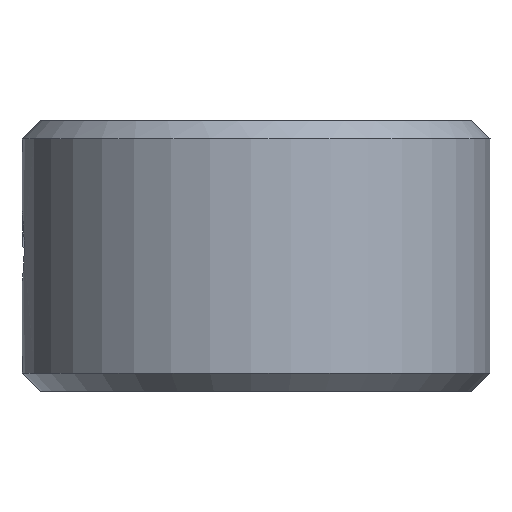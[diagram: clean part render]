
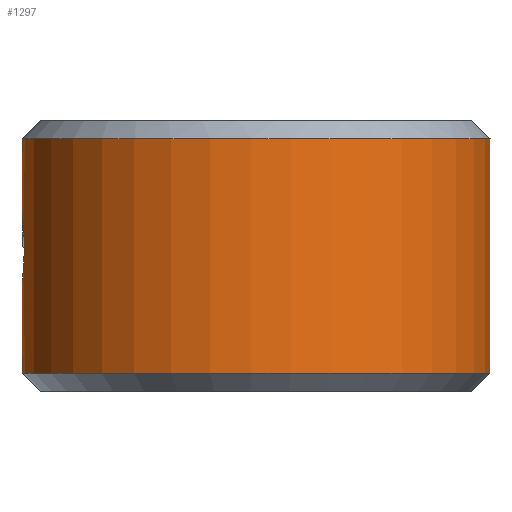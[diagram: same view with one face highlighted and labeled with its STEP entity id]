
A CAD part, front view. The second image highlights one B-rep face of the part: STEP entity #1297.
In plain terms, the highlighted cylindrical face has radius 13 mm (diameter 26 mm), a full revolution.
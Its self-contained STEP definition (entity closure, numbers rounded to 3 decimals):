
#107=CIRCLE('',#1416,13.);
#108=CIRCLE('',#1417,13.);
#109=CIRCLE('',#1420,13.);
#110=CIRCLE('',#1421,13.);
#111=CIRCLE('',#1423,13.);
#112=CIRCLE('',#1424,13.);
#158=FACE_OUTER_BOUND('',#234,.T.);
#234=EDGE_LOOP('',(#1072,#1073,#1074,#1075,#1076,#1077,#1078,#1079,#1080,
#1081,#1082,#1083,#1084,#1085));
#263=ELLIPSE('',#1419,18.385,13.);
#264=ELLIPSE('',#1422,18.385,13.);
#270=LINE('',#1956,#402);
#368=LINE('',#2205,#500);
#369=LINE('',#2208,#501);
#402=VECTOR('',#1483,10.);
#500=VECTOR('',#1713,10.);
#501=VECTOR('',#1716,13.);
#534=B_SPLINE_CURVE_WITH_KNOTS('',3,(#1922,#1923,#1924,#1925,#1926,#1927,
#1928,#1929,#1930,#1931),.UNSPECIFIED.,.F.,.F.,(4,2,2,2,4),(0.312,
0.39,0.468,0.546,0.624),
 .UNSPECIFIED.);
#535=B_SPLINE_CURVE_WITH_KNOTS('',3,(#1936,#1937,#1938,#1939,#1940,#1941,
#1942,#1943,#1944,#1945,#1946,#1947,#1948,#1949,#1950,#1951,#1952,#1953),
 .UNSPECIFIED.,.F.,.F.,(4,2,2,2,2,2,2,2,4),(0.624,0.702,
0.78,0.858,0.936,1.014,1.092,
1.17,1.232),.UNSPECIFIED.);
#551=VERTEX_POINT('',#1919);
#552=VERTEX_POINT('',#1921);
#554=VERTEX_POINT('',#1934);
#555=VERTEX_POINT('',#1955);
#634=VERTEX_POINT('',#2190);
#635=VERTEX_POINT('',#2192);
#636=VERTEX_POINT('',#2196);
#637=VERTEX_POINT('',#2198);
#638=VERTEX_POINT('',#2200);
#639=VERTEX_POINT('',#2202);
#640=VERTEX_POINT('',#2204);
#641=VERTEX_POINT('',#2206);
#667=EDGE_CURVE('',#552,#551,#534,.T.);
#670=EDGE_CURVE('',#551,#554,#535,.T.);
#671=EDGE_CURVE('',#552,#555,#270,.T.);
#787=EDGE_CURVE('',#634,#635,#107,.T.);
#788=EDGE_CURVE('',#635,#634,#108,.T.);
#789=EDGE_CURVE('',#636,#554,#263,.F.);
#790=EDGE_CURVE('',#637,#636,#109,.T.);
#791=EDGE_CURVE('',#638,#637,#110,.T.);
#792=EDGE_CURVE('',#639,#638,#264,.F.);
#793=EDGE_CURVE('',#639,#640,#368,.T.);
#794=EDGE_CURVE('',#641,#640,#111,.T.);
#795=EDGE_CURVE('',#641,#635,#369,.T.);
#796=EDGE_CURVE('',#555,#641,#112,.T.);
#1072=ORIENTED_EDGE('',*,*,#667,.T.);
#1073=ORIENTED_EDGE('',*,*,#670,.T.);
#1074=ORIENTED_EDGE('',*,*,#789,.F.);
#1075=ORIENTED_EDGE('',*,*,#790,.F.);
#1076=ORIENTED_EDGE('',*,*,#791,.F.);
#1077=ORIENTED_EDGE('',*,*,#792,.F.);
#1078=ORIENTED_EDGE('',*,*,#793,.T.);
#1079=ORIENTED_EDGE('',*,*,#794,.F.);
#1080=ORIENTED_EDGE('',*,*,#795,.T.);
#1081=ORIENTED_EDGE('',*,*,#787,.F.);
#1082=ORIENTED_EDGE('',*,*,#788,.F.);
#1083=ORIENTED_EDGE('',*,*,#795,.F.);
#1084=ORIENTED_EDGE('',*,*,#796,.F.);
#1085=ORIENTED_EDGE('',*,*,#671,.F.);
#1183=CYLINDRICAL_SURFACE('',#1418,13.);
#1297=ADVANCED_FACE('',(#158),#1183,.T.);
#1416=AXIS2_PLACEMENT_3D('',#2193,#1699,#1700);
#1417=AXIS2_PLACEMENT_3D('',#2194,#1701,#1702);
#1418=AXIS2_PLACEMENT_3D('',#2195,#1703,#1704);
#1419=AXIS2_PLACEMENT_3D('',#2197,#1705,#1706);
#1420=AXIS2_PLACEMENT_3D('',#2199,#1707,#1708);
#1421=AXIS2_PLACEMENT_3D('',#2201,#1709,#1710);
#1422=AXIS2_PLACEMENT_3D('',#2203,#1711,#1712);
#1423=AXIS2_PLACEMENT_3D('',#2207,#1714,#1715);
#1424=AXIS2_PLACEMENT_3D('',#2209,#1717,#1718);
#1483=DIRECTION('',(0.,0.,1.));
#1699=DIRECTION('center_axis',(0.,0.,-1.));
#1700=DIRECTION('ref_axis',(1.,-0.023,0.));
#1701=DIRECTION('center_axis',(0.,0.,-1.));
#1702=DIRECTION('ref_axis',(1.,-0.023,0.));
#1703=DIRECTION('center_axis',(0.,0.,1.));
#1704=DIRECTION('ref_axis',(-1.,0.023,0.));
#1705=DIRECTION('center_axis',(-0.707,0.016,-0.707));
#1706=DIRECTION('ref_axis',(-0.707,0.016,0.707));
#1707=DIRECTION('center_axis',(0.,0.,1.));
#1708=DIRECTION('ref_axis',(-1.,0.,0.));
#1709=DIRECTION('center_axis',(0.,0.,1.));
#1710=DIRECTION('ref_axis',(-1.,0.,0.));
#1711=DIRECTION('center_axis',(0.707,0.016,-0.707));
#1712=DIRECTION('ref_axis',(-0.707,-0.016,-0.707));
#1713=DIRECTION('',(0.,0.,1.));
#1714=DIRECTION('center_axis',(0.,0.,1.));
#1715=DIRECTION('ref_axis',(1.,-0.023,0.));
#1716=DIRECTION('',(0.,0.,-1.));
#1717=DIRECTION('center_axis',(0.,0.,1.));
#1718=DIRECTION('ref_axis',(1.,-0.023,0.));
#1919=CARTESIAN_POINT('',(-12.879,-89.772,8.));
#1921=CARTESIAN_POINT('',(-12.997,-87.705,10.067));
#1922=CARTESIAN_POINT('Ctrl Pts',(-12.997,-87.705,10.067));
#1923=CARTESIAN_POINT('Ctrl Pts',(-13.003,-87.964,10.067));
#1924=CARTESIAN_POINT('Ctrl Pts',(-13.,-88.241,10.015));
#1925=CARTESIAN_POINT('Ctrl Pts',(-12.981,-88.75,9.804));
#1926=CARTESIAN_POINT('Ctrl Pts',(-12.964,-88.982,9.645));
#1927=CARTESIAN_POINT('Ctrl Pts',(-12.931,-89.349,9.279));
#1928=CARTESIAN_POINT('Ctrl Pts',(-12.913,-89.508,9.046));
#1929=CARTESIAN_POINT('Ctrl Pts',(-12.886,-89.72,8.537));
#1930=CARTESIAN_POINT('Ctrl Pts',(-12.879,-89.772,8.26));
#1931=CARTESIAN_POINT('Ctrl Pts',(-12.879,-89.772,8.));
#1934=CARTESIAN_POINT('',(-12.785,-85.644,7.835));
#1936=CARTESIAN_POINT('Ctrl Pts',(-12.879,-89.772,8.));
#1937=CARTESIAN_POINT('Ctrl Pts',(-12.879,-89.772,7.74));
#1938=CARTESIAN_POINT('Ctrl Pts',(-12.886,-89.72,7.463));
#1939=CARTESIAN_POINT('Ctrl Pts',(-12.913,-89.508,6.954));
#1940=CARTESIAN_POINT('Ctrl Pts',(-12.931,-89.349,6.721));
#1941=CARTESIAN_POINT('Ctrl Pts',(-12.964,-88.982,6.355));
#1942=CARTESIAN_POINT('Ctrl Pts',(-12.981,-88.75,6.196));
#1943=CARTESIAN_POINT('Ctrl Pts',(-13.,-88.241,5.985));
#1944=CARTESIAN_POINT('Ctrl Pts',(-13.003,-87.964,5.933));
#1945=CARTESIAN_POINT('Ctrl Pts',(-12.991,-87.444,5.933));
#1946=CARTESIAN_POINT('Ctrl Pts',(-12.976,-87.167,5.985));
#1947=CARTESIAN_POINT('Ctrl Pts',(-12.933,-86.658,6.197));
#1948=CARTESIAN_POINT('Ctrl Pts',(-12.906,-86.426,6.356));
#1949=CARTESIAN_POINT('Ctrl Pts',(-12.856,-86.059,6.722));
#1950=CARTESIAN_POINT('Ctrl Pts',(-12.83,-85.901,6.954));
#1951=CARTESIAN_POINT('Ctrl Pts',(-12.797,-85.712,7.41));
#1952=CARTESIAN_POINT('Ctrl Pts',(-12.788,-85.661,7.625));
#1953=CARTESIAN_POINT('Ctrl Pts',(-12.785,-85.644,7.835));
#1955=CARTESIAN_POINT('',(-12.997,-87.705,14.));
#1956=CARTESIAN_POINT('',(-12.997,-87.705,0.));
#2190=CARTESIAN_POINT('',(-12.997,-87.705,1.));
#2192=CARTESIAN_POINT('',(12.997,-88.295,1.));
#2193=CARTESIAN_POINT('Origin',(0.,-88.,1.));
#2194=CARTESIAN_POINT('Origin',(0.,-88.,1.));
#2195=CARTESIAN_POINT('Origin',(0.,-88.,0.));
#2196=CARTESIAN_POINT('',(-11.883,-82.729,7.));
#2197=CARTESIAN_POINT('Origin',(0.,-88.,-5.));
#2198=CARTESIAN_POINT('',(0.,-75.,7.));
#2199=CARTESIAN_POINT('Origin',(0.,-88.,7.));
#2200=CARTESIAN_POINT('',(11.883,-82.729,7.));
#2201=CARTESIAN_POINT('Origin',(0.,-88.,7.));
#2202=CARTESIAN_POINT('',(12.997,-87.705,8.));
#2203=CARTESIAN_POINT('Origin',(0.,-88.,-5.));
#2204=CARTESIAN_POINT('',(12.997,-87.705,14.));
#2205=CARTESIAN_POINT('',(12.997,-87.705,0.));
#2206=CARTESIAN_POINT('',(12.997,-88.295,14.));
#2207=CARTESIAN_POINT('Origin',(0.,-88.,14.));
#2208=CARTESIAN_POINT('',(12.997,-88.295,0.));
#2209=CARTESIAN_POINT('Origin',(0.,-88.,14.));
